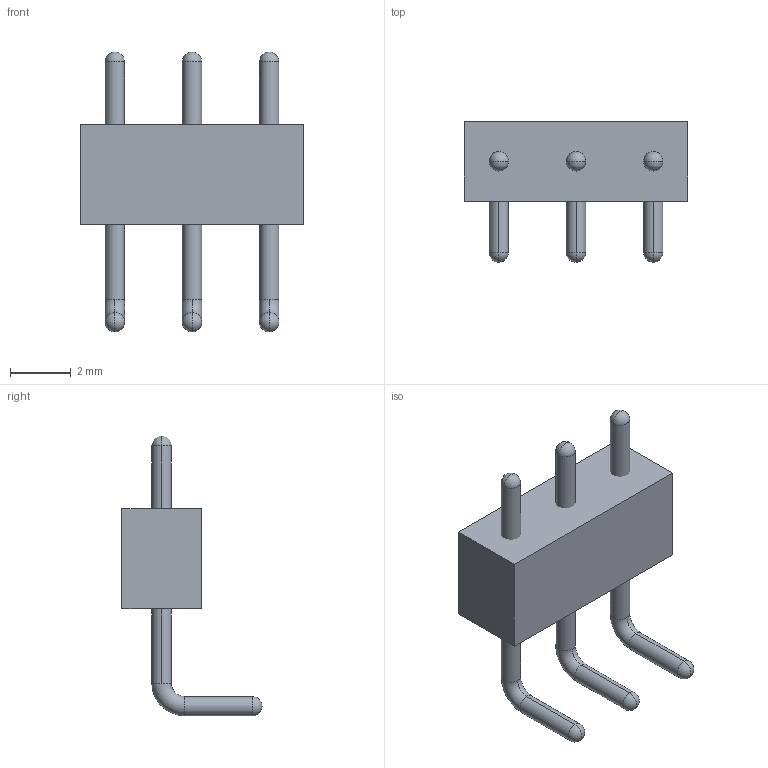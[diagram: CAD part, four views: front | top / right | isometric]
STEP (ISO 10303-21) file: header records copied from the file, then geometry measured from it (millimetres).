
FILE_DESCRIPTION (( 'STEP AP214' ), '1' );
FILE_NAME ( 'HDRRA3W64P254_3X1_737X330H261.STEP', '2021-10-06T06:49:13', ( '' ), ( '' ), '', '©2017 PCB Libraries, Inc.', '' );
FILE_SCHEMA (( 'AUTOMOTIVE_DESIGN' ));
Length unit declared in the file: millimetre
Products named in the file (1): HDRRA3W64P254_3X1_737X330H261
Bounding box: 7.37 x 4.61 x 9.21 mm (x, y, z)
Volume: 72.3 mm3; surface area: 162.5 mm2
Topology: 7 solids, 7 shells, 48 faces, 114 edges, 68 vertices
Faces by surface type: cylinder 18, sphere 12, plane 12, torus 6
Entity records: 1378 total; most frequent: DIRECTION 248, CARTESIAN_POINT 195, ORIENTED_EDGE 180, AXIS2_PLACEMENT_3D 109, EDGE_CURVE 90, CIRCLE 60, VERTEX_POINT 56, EDGE_LOOP 48
